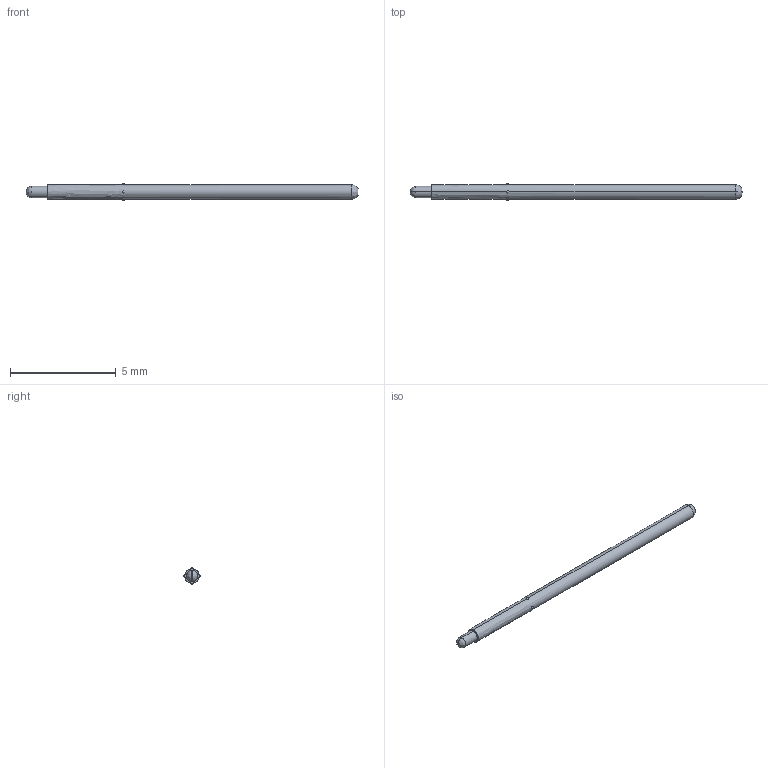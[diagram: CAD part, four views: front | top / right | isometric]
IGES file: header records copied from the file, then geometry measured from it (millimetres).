
Start section: SolidWorks IGES file using analytic representation for surfaces
Global section: file name: O:\PYLON\IGES FILES\P2662A\P2662A-1R1S FULL.IGS; native system: SolidWorks 2015; preprocessor: SolidWorks 2015; author: kgolden; date: 171019.090806; units: inch
Bounding box: 15.72 x 0.79 x 0.79 mm (x, y, z)
Surface area: 36.2 mm2 (no closed solid volume)
Topology: 0 solids, 0 shells, 21 faces, 192 edges, 176 vertices
Faces by surface type: revolution 14, bspline 7
